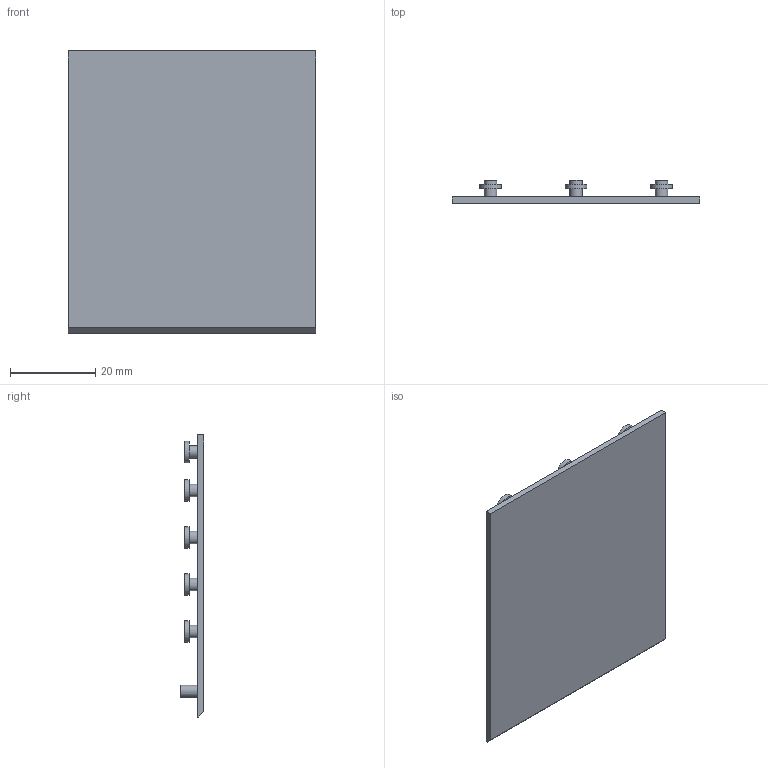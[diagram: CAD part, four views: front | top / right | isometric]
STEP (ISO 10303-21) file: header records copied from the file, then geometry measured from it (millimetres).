
FILE_DESCRIPTION(('Open CASCADE Model'),'2;1');
FILE_NAME('Open CASCADE Shape Model','2026-10-17T23:02:58',('Author'),( 'Open CASCADE'),'Open CASCADE STEP processor 7.9','Open CASCADE 7.9' ,'Unknown');
FILE_SCHEMA(('AUTOMOTIVE_DESIGN { 1 0 10303 214 1 1 1 1 }'));
Length unit declared in the file: millimetre
Products named in the file (1): Open CASCADE STEP translator 7.9 10
Bounding box: 58 x 5.5 x 66 mm (x, y, z)
Volume: 6282 mm3; surface area: 8999.9 mm2
Topology: 1 solids, 1 shells, 73 faces, 114 edges, 76 vertices
Faces by surface type: plane 40, cylinder 33
Full cylindrical faces by diameter (mm): 2.9 x18, 5 x15
Entity records: 3211 total; most frequent: CARTESIAN_POINT 582, DIRECTION 541, ORIENTED_EDGE 228, PCURVE 228, DEFINITIONAL_REPRESENTATION 228, LINE 210, VECTOR 210, AXIS2_PLACEMENT_3D 140
